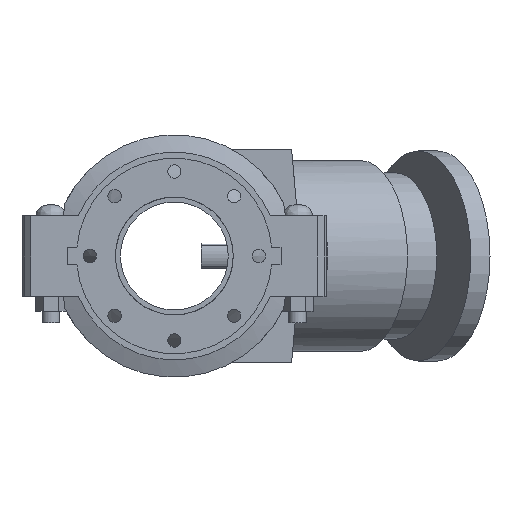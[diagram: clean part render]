
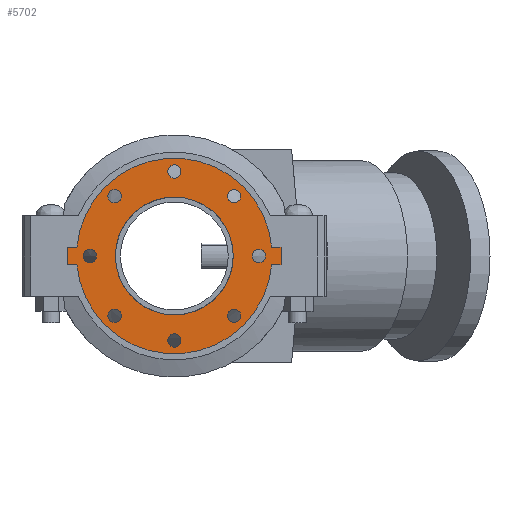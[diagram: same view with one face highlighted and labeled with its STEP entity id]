
A CAD part, front view. The second image highlights one B-rep face of the part: STEP entity #5702.
In plain terms, the highlighted planar face has unit normal (0, -1, 0) as drawn and (0, 0, 1) by its records, which use the part's own axes.
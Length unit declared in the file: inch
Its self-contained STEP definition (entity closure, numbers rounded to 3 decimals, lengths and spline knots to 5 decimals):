
#154=FACE_BOUND('',#757,.T.);
#155=FACE_BOUND('',#758,.T.);
#156=FACE_BOUND('',#759,.T.);
#157=FACE_BOUND('',#760,.T.);
#158=FACE_BOUND('',#761,.T.);
#159=FACE_BOUND('',#762,.T.);
#160=FACE_BOUND('',#763,.T.);
#161=FACE_BOUND('',#764,.T.);
#162=FACE_BOUND('',#765,.T.);
#232=PLANE('',#6251);
#431=FACE_OUTER_BOUND('',#756,.T.);
#756=EDGE_LOOP('',(#3737,#3738,#3739,#3740,#3741,#3742,#3743,#3744));
#757=EDGE_LOOP('',(#3745));
#758=EDGE_LOOP('',(#3746));
#759=EDGE_LOOP('',(#3747));
#760=EDGE_LOOP('',(#3748));
#761=EDGE_LOOP('',(#3749));
#762=EDGE_LOOP('',(#3750));
#763=EDGE_LOOP('',(#3751));
#764=EDGE_LOOP('',(#3752));
#765=EDGE_LOOP('',(#3753,#3754));
#1145=LINE('',#8778,#1560);
#1146=LINE('',#8781,#1561);
#1149=LINE('',#8786,#1564);
#1150=LINE('',#8789,#1565);
#1152=LINE('',#8792,#1567);
#1153=LINE('',#8794,#1568);
#1560=VECTOR('',#6993,0.3937);
#1561=VECTOR('',#6996,0.3937);
#1564=VECTOR('',#7001,0.3937);
#1565=VECTOR('',#7004,0.3937);
#1567=VECTOR('',#7008,0.3937);
#1568=VECTOR('',#7011,0.3937);
#1955=CIRCLE('',#6210,0.375);
#1957=CIRCLE('',#6213,0.375);
#1959=CIRCLE('',#6216,0.375);
#1961=CIRCLE('',#6219,0.375);
#1963=CIRCLE('',#6222,0.375);
#1965=CIRCLE('',#6225,0.375);
#1967=CIRCLE('',#6228,0.375);
#1969=CIRCLE('',#6231,0.375);
#1975=CIRCLE('',#6239,5.5);
#1976=CIRCLE('',#6241,3.3125);
#1977=CIRCLE('',#6242,3.3125);
#1978=CIRCLE('',#6244,5.5);
#2295=VERTEX_POINT('',#8689);
#2297=VERTEX_POINT('',#8695);
#2299=VERTEX_POINT('',#8701);
#2301=VERTEX_POINT('',#8707);
#2303=VERTEX_POINT('',#8713);
#2305=VERTEX_POINT('',#8719);
#2307=VERTEX_POINT('',#8725);
#2309=VERTEX_POINT('',#8731);
#2321=VERTEX_POINT('',#8758);
#2322=VERTEX_POINT('',#8760);
#2323=VERTEX_POINT('',#8764);
#2324=VERTEX_POINT('',#8766);
#2325=VERTEX_POINT('',#8770);
#2326=VERTEX_POINT('',#8772);
#2327=VERTEX_POINT('',#8776);
#2328=VERTEX_POINT('',#8780);
#2329=VERTEX_POINT('',#8784);
#2330=VERTEX_POINT('',#8788);
#2847=EDGE_CURVE('',#2295,#2295,#1955,.T.);
#2850=EDGE_CURVE('',#2297,#2297,#1957,.T.);
#2853=EDGE_CURVE('',#2299,#2299,#1959,.T.);
#2856=EDGE_CURVE('',#2301,#2301,#1961,.T.);
#2859=EDGE_CURVE('',#2303,#2303,#1963,.T.);
#2862=EDGE_CURVE('',#2305,#2305,#1965,.T.);
#2865=EDGE_CURVE('',#2307,#2307,#1967,.T.);
#2868=EDGE_CURVE('',#2309,#2309,#1969,.T.);
#2883=EDGE_CURVE('',#2321,#2322,#1975,.T.);
#2885=EDGE_CURVE('',#2324,#2323,#1976,.T.);
#2886=EDGE_CURVE('',#2323,#2324,#1977,.T.);
#2888=EDGE_CURVE('',#2326,#2325,#1978,.T.);
#2891=EDGE_CURVE('',#2322,#2327,#1145,.T.);
#2892=EDGE_CURVE('',#2328,#2326,#1146,.T.);
#2895=EDGE_CURVE('',#2325,#2329,#1149,.T.);
#2896=EDGE_CURVE('',#2330,#2321,#1150,.T.);
#2898=EDGE_CURVE('',#2329,#2330,#1152,.T.);
#2899=EDGE_CURVE('',#2327,#2328,#1153,.T.);
#3737=ORIENTED_EDGE('',*,*,#2895,.T.);
#3738=ORIENTED_EDGE('',*,*,#2898,.T.);
#3739=ORIENTED_EDGE('',*,*,#2896,.T.);
#3740=ORIENTED_EDGE('',*,*,#2883,.T.);
#3741=ORIENTED_EDGE('',*,*,#2891,.T.);
#3742=ORIENTED_EDGE('',*,*,#2899,.T.);
#3743=ORIENTED_EDGE('',*,*,#2892,.T.);
#3744=ORIENTED_EDGE('',*,*,#2888,.T.);
#3745=ORIENTED_EDGE('',*,*,#2847,.T.);
#3746=ORIENTED_EDGE('',*,*,#2850,.T.);
#3747=ORIENTED_EDGE('',*,*,#2853,.T.);
#3748=ORIENTED_EDGE('',*,*,#2856,.T.);
#3749=ORIENTED_EDGE('',*,*,#2859,.T.);
#3750=ORIENTED_EDGE('',*,*,#2862,.T.);
#3751=ORIENTED_EDGE('',*,*,#2865,.T.);
#3752=ORIENTED_EDGE('',*,*,#2868,.T.);
#3753=ORIENTED_EDGE('',*,*,#2885,.T.);
#3754=ORIENTED_EDGE('',*,*,#2886,.T.);
#5702=ADVANCED_FACE('',(#431,#154,#155,#156,#157,#158,#159,#160,#161,#162),
#232,.T.);
#6210=AXIS2_PLACEMENT_3D('',#8690,#6901,#6902);
#6213=AXIS2_PLACEMENT_3D('',#8696,#6908,#6909);
#6216=AXIS2_PLACEMENT_3D('',#8702,#6915,#6916);
#6219=AXIS2_PLACEMENT_3D('',#8708,#6922,#6923);
#6222=AXIS2_PLACEMENT_3D('',#8714,#6929,#6930);
#6225=AXIS2_PLACEMENT_3D('',#8720,#6936,#6937);
#6228=AXIS2_PLACEMENT_3D('',#8726,#6943,#6944);
#6231=AXIS2_PLACEMENT_3D('',#8732,#6950,#6951);
#6239=AXIS2_PLACEMENT_3D('',#8762,#6975,#6976);
#6241=AXIS2_PLACEMENT_3D('',#8767,#6980,#6981);
#6242=AXIS2_PLACEMENT_3D('',#8768,#6982,#6983);
#6244=AXIS2_PLACEMENT_3D('',#8773,#6987,#6988);
#6251=AXIS2_PLACEMENT_3D('',#8795,#7012,#7013);
#6901=DIRECTION('center_axis',(0.,0.,-1.));
#6902=DIRECTION('ref_axis',(-0.707,0.707,0.));
#6908=DIRECTION('center_axis',(0.,0.,-1.));
#6909=DIRECTION('ref_axis',(0.,1.,0.));
#6915=DIRECTION('center_axis',(0.,0.,-1.));
#6916=DIRECTION('ref_axis',(0.707,0.707,0.));
#6922=DIRECTION('center_axis',(0.,0.,-1.));
#6923=DIRECTION('ref_axis',(1.,0.,0.));
#6929=DIRECTION('center_axis',(0.,0.,-1.));
#6930=DIRECTION('ref_axis',(0.707,-0.707,0.));
#6936=DIRECTION('center_axis',(0.,0.,-1.));
#6937=DIRECTION('ref_axis',(0.,-1.,0.));
#6943=DIRECTION('center_axis',(0.,0.,-1.));
#6944=DIRECTION('ref_axis',(-0.707,-0.707,0.));
#6950=DIRECTION('center_axis',(0.,0.,-1.));
#6951=DIRECTION('ref_axis',(-1.,0.,0.));
#6975=DIRECTION('center_axis',(0.,0.,1.));
#6976=DIRECTION('ref_axis',(-1.,0.,0.));
#6980=DIRECTION('center_axis',(0.,0.,-1.));
#6981=DIRECTION('ref_axis',(-1.,0.,0.));
#6982=DIRECTION('center_axis',(0.,0.,-1.));
#6983=DIRECTION('ref_axis',(-1.,0.,0.));
#6987=DIRECTION('center_axis',(0.,0.,1.));
#6988=DIRECTION('ref_axis',(-1.,0.,0.));
#6993=DIRECTION('',(0.,1.,0.));
#6996=DIRECTION('',(0.,-1.,0.));
#7001=DIRECTION('',(0.,-1.,0.));
#7004=DIRECTION('',(0.,1.,0.));
#7008=DIRECTION('',(1.,0.,0.));
#7011=DIRECTION('',(-1.,0.,0.));
#7012=DIRECTION('center_axis',(0.,0.,1.));
#7013=DIRECTION('ref_axis',(1.,0.,0.));
#8689=CARTESIAN_POINT('',(-3.09359,3.09359,0.5));
#8690=CARTESIAN_POINT('Origin',(-3.35876,3.35876,0.5));
#8695=CARTESIAN_POINT('',(0.,4.375,0.5));
#8696=CARTESIAN_POINT('Origin',(0.,4.75,0.5));
#8701=CARTESIAN_POINT('',(3.09359,3.09359,0.5));
#8702=CARTESIAN_POINT('Origin',(3.35876,3.35876,0.5));
#8707=CARTESIAN_POINT('',(4.375,0.,0.5));
#8708=CARTESIAN_POINT('Origin',(4.75,0.,0.5));
#8713=CARTESIAN_POINT('',(3.09359,-3.09359,0.5));
#8714=CARTESIAN_POINT('Origin',(3.35876,-3.35876,0.5));
#8719=CARTESIAN_POINT('',(0.,-4.375,0.5));
#8720=CARTESIAN_POINT('Origin',(0.,-4.75,0.5));
#8725=CARTESIAN_POINT('',(-3.09359,-3.09359,0.5));
#8726=CARTESIAN_POINT('Origin',(-3.35876,-3.35876,0.5));
#8731=CARTESIAN_POINT('',(-4.375,0.,0.5));
#8732=CARTESIAN_POINT('Origin',(-4.75,0.,0.5));
#8758=CARTESIAN_POINT('',(0.5,-5.47723,0.5));
#8760=CARTESIAN_POINT('',(0.5,5.47723,0.5));
#8762=CARTESIAN_POINT('Origin',(0.,0.,0.5));
#8764=CARTESIAN_POINT('',(3.3125,0.,0.5));
#8766=CARTESIAN_POINT('',(0.5,3.27455,0.5));
#8767=CARTESIAN_POINT('Origin',(0.,0.,0.5));
#8768=CARTESIAN_POINT('Origin',(0.,0.,0.5));
#8770=CARTESIAN_POINT('',(-0.5,-5.47723,0.5));
#8772=CARTESIAN_POINT('',(-0.5,5.47723,0.5));
#8773=CARTESIAN_POINT('Origin',(0.,0.,0.5));
#8776=CARTESIAN_POINT('',(0.5,6.,0.5));
#8778=CARTESIAN_POINT('',(0.5,6.,0.5));
#8780=CARTESIAN_POINT('',(-0.5,6.,0.5));
#8781=CARTESIAN_POINT('',(-0.5,-6.,0.5));
#8784=CARTESIAN_POINT('',(-0.5,-6.,0.5));
#8786=CARTESIAN_POINT('',(-0.5,-6.,0.5));
#8788=CARTESIAN_POINT('',(0.5,-6.,0.5));
#8789=CARTESIAN_POINT('',(0.5,6.,0.5));
#8792=CARTESIAN_POINT('',(0.5,-6.,0.5));
#8794=CARTESIAN_POINT('',(-0.5,6.,0.5));
#8795=CARTESIAN_POINT('Origin',(0.,0.,0.5));
